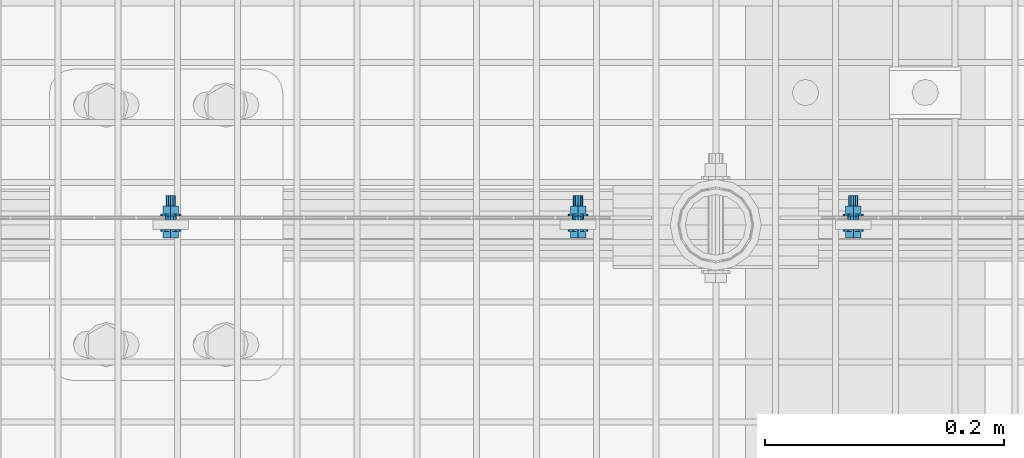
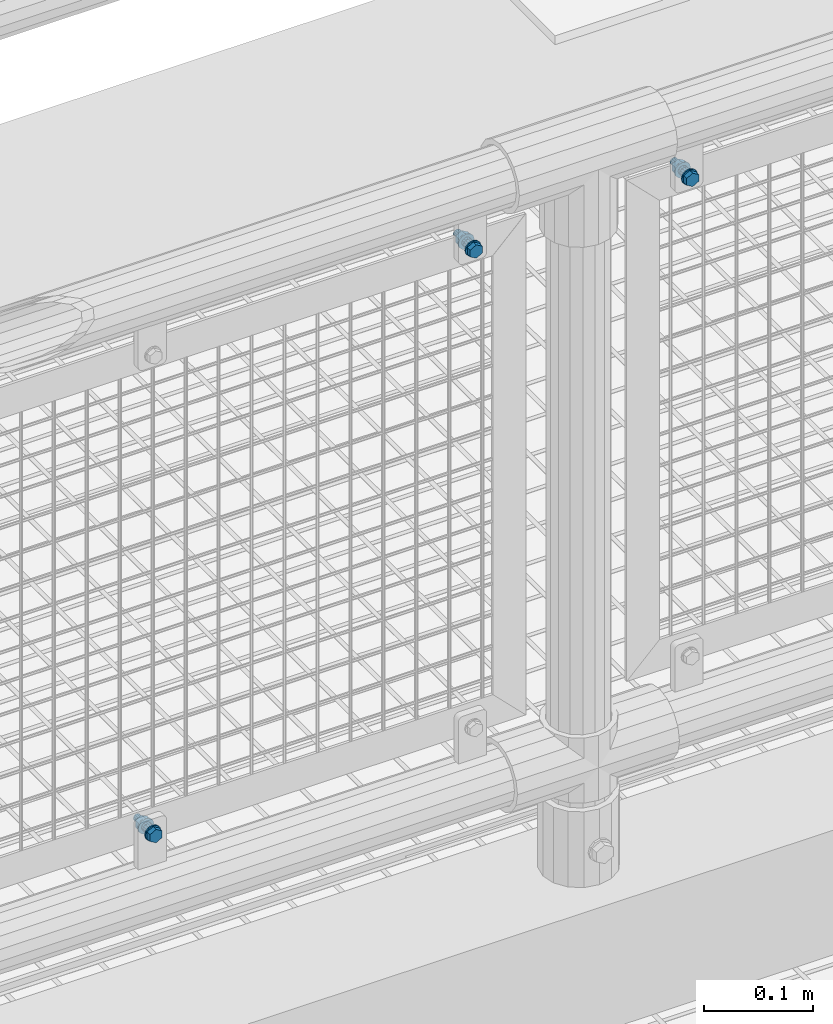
# One storey, part 88 of 1530: 3 mechanical fasteners.
"""IFC2X3 building model written with IfcOpenShell, lengths in millimetres."""

from ifc_helpers import new_model, si_unit, frame, origin_with_axes, place, context, subcontext, project, spatial, faceted_brep, source, transform, mapped, material, type_object, element, save


model = new_model("IFC2X3")

# Units and contexts
model_context = context("Model", 3, precision=1e-05, world=origin_with_axes())
body_context = subcontext(model_context, "Body", "Model", "MODEL_VIEW")
ifc_project = project(units=[si_unit("LENGTHUNIT", "METRE", prefix="MILLI"), si_unit("AREAUNIT", "SQUARE_METRE"), si_unit("VOLUMEUNIT", "CUBIC_METRE"), si_unit("MASSUNIT", "GRAM", prefix="KILO"), si_unit("TIMEUNIT", "SECOND"), si_unit("PLANEANGLEUNIT", "RADIAN"), si_unit("SOLIDANGLEUNIT", "STERADIAN"), si_unit("THERMODYNAMICTEMPERATUREUNIT", "DEGREE_CELSIUS"), si_unit("LUMINOUSINTENSITYUNIT", "LUMEN")], contexts=[model_context])

# Site, building, storey
site_placement = place(None, origin_with_axes())
site = spatial("IfcSite", under=ifc_project, at=site_placement, Name="Brattvåg", CompositionType="ELEMENT")
building_placement = place(site_placement, origin_with_axes())
building = spatial("IfcBuilding", under=site, at=building_placement, Name="Undefined", CompositionType="ELEMENT")
storey_placement = place(building_placement, origin_with_axes())
storey = spatial("IfcBuildingStorey", under=building, at=storey_placement, Name="Undefined", CompositionType="ELEMENT", Elevation=0.0)

# Mechanical fasteners
ifc_material = material(Name="8")
mechanical_fastener_type = type_object("IfcMechanicalFastenerType", Name="Bolt assembly")
shared_shape_1 = source(origin_with_axes(), body_context, "Body", "Brep", [
    faceted_brep([(7.50555349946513, -6.90000021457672, 0.0), (3.75277674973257, -6.90000021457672, 6.5), (-3.75277674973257, -6.90000021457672, 6.5), (-7.50555349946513, -6.90000021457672, 9.19165206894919e-16), (-3.75277674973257, -6.90000021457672, -6.5), (3.75277674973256, -6.90000021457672, -6.5), (3.75277674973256, -1.60000002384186, -6.5), (-3.75277674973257, -1.60000002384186, -6.5), (-7.50555349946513, -1.60000002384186, 9.19165206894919e-16), (-3.75277674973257, -1.60000002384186, 6.5), (3.75277674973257, -1.60000002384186, 6.5), (7.50555349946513, -1.60000002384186, 0.0), (4.0, -1.60000002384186, 0.0), (3.46410161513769, -1.60000002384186, 2.00000000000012), (1.99999999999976, -1.60000002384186, 3.46410161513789), (-4.14534392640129e-13, -1.60000002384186, 4.0), (-2.00000000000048, -1.60000002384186, 3.46410161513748), (-3.4641016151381, -1.60000002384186, 1.9999999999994), (-4.0, -1.60000002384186, -8.29068785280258e-13), (-3.46410161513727, -1.60000002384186, -2.00000000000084), (-1.99999999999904, -1.60000002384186, -3.46410161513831), (1.23916228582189e-12, -1.60000002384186, -4.0), (2.00000000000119, -1.60000002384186, -3.46410161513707), (3.46410161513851, -1.60000002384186, -1.99999999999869), (3.46410161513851, 28.3999999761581, -1.99999999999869), (2.00000000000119, 28.3999999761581, -3.46410161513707), (1.23916228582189e-12, 28.3999999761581, -4.0), (-1.99999999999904, 28.3999999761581, -3.46410161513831), (-3.46410161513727, 28.3999999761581, -2.00000000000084), (-4.0, 28.3999999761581, -8.29068785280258e-13), (-3.4641016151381, 28.3999999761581, 1.9999999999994), (-2.00000000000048, 28.3999999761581, 3.46410161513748), (-4.14534392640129e-13, 28.3999999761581, 4.0), (1.99999999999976, 28.3999999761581, 3.46410161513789), (3.46410161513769, 28.3999999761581, 2.00000000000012), (4.0, 28.3999999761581, 0.0), (8.5, -1.60000002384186, 0.0), (7.36121593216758, -1.60000002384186, 4.25000000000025), (4.24999999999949, -1.60000002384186, 7.36121593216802), (-8.80885584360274e-13, -1.60000002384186, 8.5), (-4.25000000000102, -1.60000002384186, 7.36121593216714), (-7.36121593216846, -1.60000002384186, 4.24999999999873), (-8.5, -1.60000002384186, -1.76177116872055e-12), (-7.3612159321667, -1.60000002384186, -4.25000000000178), (-4.24999999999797, -1.60000002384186, -7.3612159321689), (2.63321985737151e-12, -1.60000002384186, -8.5), (4.25000000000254, -1.60000002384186, -7.36121593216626), (7.36121593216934, -1.60000002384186, -4.24999999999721), (7.36121593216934, 0.0, -4.24999999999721), (4.25000000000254, 0.0, -7.36121593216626), (2.63321985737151e-12, 0.0, -8.5), (-4.24999999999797, 0.0, -7.3612159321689), (-7.3612159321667, 0.0, -4.25000000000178), (-8.5, 0.0, -1.76177116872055e-12), (-7.36121593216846, 0.0, 4.24999999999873), (-4.25000000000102, 0.0, 7.36121593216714), (-8.80885584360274e-13, 0.0, 8.5), (4.24999999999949, 0.0, 7.36121593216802), (7.36121593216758, 0.0, 4.25000000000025), (8.5, 0.0, 0.0), (8.5, 11.5015258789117, 0.0), (7.36121593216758, 11.5015258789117, 4.25000000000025), (4.24999999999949, 11.5015258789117, 7.36121593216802), (-8.80885584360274e-13, 11.5015258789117, 8.5), (-4.25000000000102, 11.5015258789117, 7.36121593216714), (-7.36121593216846, 11.5015258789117, 4.24999999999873), (-8.5, 11.5015258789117, -1.76177116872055e-12), (-7.3612159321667, 11.5015258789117, -4.25000000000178), (-4.24999999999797, 11.5015258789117, -7.3612159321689), (2.63321985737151e-12, 11.5015258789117, -8.5), (4.25000000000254, 11.5015258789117, -7.36121593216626), (7.36121593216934, 11.5015258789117, -4.24999999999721), (7.36121593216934, 13.1015259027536, -4.24999999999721), (4.25000000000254, 13.1015259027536, -7.36121593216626), (2.63321985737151e-12, 13.1015259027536, -8.5), (-4.24999999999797, 13.1015259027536, -7.3612159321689), (-7.3612159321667, 13.1015259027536, -4.25000000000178), (-8.5, 13.1015259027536, -1.76177116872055e-12), (-7.36121593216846, 13.1015259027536, 4.24999999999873), (-4.25000000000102, 13.1015259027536, 7.36121593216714), (-8.80885584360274e-13, 13.1015259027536, 8.5), (4.24999999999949, 13.1015259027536, 7.36121593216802), (7.36121593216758, 13.1015259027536, 4.25000000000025), (8.5, 13.1015259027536, 0.0), (7.50555349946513, 13.1015259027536, 0.0), (3.75277674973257, 13.1015259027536, 6.5), (-3.75277674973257, 13.1015259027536, 6.5), (-7.50555349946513, 13.1015259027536, 9.19165206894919e-16), (-3.75277674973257, 13.1015259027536, -6.5), (3.75277674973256, 13.1015259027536, -6.5), (3.75277674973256, 19.9015260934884, -6.5), (-3.75277674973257, 19.9015260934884, -6.5), (-7.50555349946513, 19.9015260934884, 9.19165206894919e-16), (-3.75277674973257, 19.9015260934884, 6.5), (3.75277674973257, 19.9015260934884, 6.5), (7.50555349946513, 19.9015260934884, 0.0)], [[[0, 1, 2, 3, 4, 5]], [[6, 7, 8, 9, 10, 11]], [[0, 11, 10, 1]], [[1, 10, 9, 2]], [[2, 9, 8, 3]], [[3, 8, 7, 4]], [[4, 7, 6, 5]], [[5, 6, 11, 0]], [[12, 13, 14, 15, 16, 17, 18, 19, 20, 21, 22, 23]], [[24, 25, 26, 27, 28, 29, 30, 31, 32, 33, 34, 35]], [[12, 35, 34, 13]], [[13, 34, 33, 14]], [[14, 33, 32, 15]], [[15, 32, 31, 16]], [[16, 31, 30, 17]], [[17, 30, 29, 18]], [[18, 29, 28, 19]], [[19, 28, 27, 20]], [[20, 27, 26, 21]], [[21, 26, 25, 22]], [[22, 25, 24, 23]], [[23, 24, 35, 12]], [[36, 37, 38, 39, 40, 41, 42, 43, 44, 45, 46, 47]], [[48, 49, 50, 51, 52, 53, 54, 55, 56, 57, 58, 59]], [[36, 59, 58, 37]], [[37, 58, 57, 38]], [[38, 57, 56, 39]], [[39, 56, 55, 40]], [[40, 55, 54, 41]], [[41, 54, 53, 42]], [[42, 53, 52, 43]], [[43, 52, 51, 44]], [[44, 51, 50, 45]], [[45, 50, 49, 46]], [[46, 49, 48, 47]], [[47, 48, 59, 36]], [[60, 61, 62, 63, 64, 65, 66, 67, 68, 69, 70, 71]], [[72, 73, 74, 75, 76, 77, 78, 79, 80, 81, 82, 83]], [[60, 83, 82, 61]], [[61, 82, 81, 62]], [[62, 81, 80, 63]], [[63, 80, 79, 64]], [[64, 79, 78, 65]], [[65, 78, 77, 66]], [[66, 77, 76, 67]], [[67, 76, 75, 68]], [[68, 75, 74, 69]], [[69, 74, 73, 70]], [[70, 73, 72, 71]], [[71, 72, 83, 60]], [[84, 85, 86, 87, 88, 89]], [[90, 91, 92, 93, 94, 95]], [[84, 95, 94, 85]], [[85, 94, 93, 86]], [[86, 93, 92, 87]], [[87, 92, 91, 88]], [[88, 91, 90, 89]], [[89, 90, 95, 84]]]),
    faceted_brep([(5.0, 0.1, 0.0), (4.33012701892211, 0.1, 2.50000000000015), (2.4999999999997, 0.1, 4.33012701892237), (-5.18167990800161e-13, 0.1, 5.0), (-2.5000000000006, 0.1, 4.33012701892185), (-4.33012701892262, 0.1, 2.49999999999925), (-5.0, 0.1, -1.03633598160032e-12), (-4.33012701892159, 0.1, -2.50000000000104), (-2.49999999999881, 0.1, -4.33012701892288), (1.54895285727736e-12, 0.1, -5.0), (2.50000000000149, 0.1, -4.33012701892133), (4.33012701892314, 0.1, -2.49999999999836), (4.33012701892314, 8.1, -2.49999999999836), (2.50000000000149, 8.1, -4.33012701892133), (1.54895285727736e-12, 8.1, -5.0), (-2.49999999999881, 8.1, -4.33012701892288), (-4.33012701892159, 8.1, -2.50000000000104), (-5.0, 8.1, -1.03633598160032e-12), (-4.33012701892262, 8.1, 2.49999999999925), (-2.5000000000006, 8.1, 4.33012701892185), (-5.18167990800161e-13, 8.1, 5.0), (2.4999999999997, 8.1, 4.33012701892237), (4.33012701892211, 8.1, 2.50000000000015), (5.0, 8.1, 0.0), (5.0, 8.40152587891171, 0.0), (4.33012701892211, 8.40152587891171, 2.50000000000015), (2.4999999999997, 8.40152587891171, 4.33012701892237), (-5.18167990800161e-13, 8.40152587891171, 5.0), (-2.5000000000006, 8.40152587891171, 4.33012701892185), (-4.33012701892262, 8.40152587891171, 2.49999999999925), (-5.0, 8.40152587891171, -1.03633598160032e-12), (-4.33012701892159, 8.40152587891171, -2.50000000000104), (-2.49999999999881, 8.40152587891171, -4.33012701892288), (1.54895285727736e-12, 8.40152587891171, -5.0), (2.50000000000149, 8.40152587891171, -4.33012701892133), (4.33012701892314, 8.40152587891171, -2.49999999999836), (4.33012701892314, 11.5015258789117, -2.49999999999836), (2.50000000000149, 11.5015258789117, -4.33012701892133), (1.54895285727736e-12, 11.5015258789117, -5.0), (-2.49999999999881, 11.5015258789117, -4.33012701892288), (-4.33012701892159, 11.5015258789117, -2.50000000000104), (-5.0, 11.5015258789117, -1.03633598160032e-12), (-4.33012701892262, 11.5015258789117, 2.49999999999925), (-2.5000000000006, 11.5015258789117, 4.33012701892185), (-5.18167990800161e-13, 11.5015258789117, 5.0), (2.4999999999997, 11.5015258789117, 4.33012701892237), (4.33012701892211, 11.5015258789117, 2.50000000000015), (5.0, 11.5015258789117, 0.0)], [[[0, 1, 2, 3, 4, 5, 6, 7, 8, 9, 10, 11]], [[12, 13, 14, 15, 16, 17, 18, 19, 20, 21, 22, 23]], [[0, 23, 22, 1]], [[1, 22, 21, 2]], [[2, 21, 20, 3]], [[3, 20, 19, 4]], [[4, 19, 18, 5]], [[5, 18, 17, 6]], [[6, 17, 16, 7]], [[7, 16, 15, 8]], [[8, 15, 14, 9]], [[9, 14, 13, 10]], [[10, 13, 12, 11]], [[11, 12, 23, 0]], [[24, 25, 26, 27, 28, 29, 30, 31, 32, 33, 34, 35]], [[36, 37, 38, 39, 40, 41, 42, 43, 44, 45, 46, 47]], [[24, 47, 46, 25]], [[25, 46, 45, 26]], [[26, 45, 44, 27]], [[27, 44, 43, 28]], [[28, 43, 42, 29]], [[29, 42, 41, 30]], [[30, 41, 40, 31]], [[31, 40, 39, 32]], [[32, 39, 38, 33]], [[33, 38, 37, 34]], [[34, 37, 36, 35]], [[35, 36, 47, 24]]]),
])
mechanical_fastener_1_placement = place(storey_placement, frame((8735.85095214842, 7660.49950027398, 889.680069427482), z_axis=(-1.0, 1.99999855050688e-09, 0.0), x_axis=(0.0, 0.0, 1.0)))
element("IfcMechanicalFastener", 1, at=mechanical_fastener_1_placement, inside=storey, type_object=mechanical_fastener_type, material=ifc_material, Name="Bolt assembly", NominalDiameter=8.0, NominalLength=30.0, context=body_context, shape_type="MappedRepresentation", body=[
    mapped(shared_shape_1, transform((0.0, 0.0, 0.0))),
])
shared_shape_2 = source(origin_with_axes(), body_context, "Body", "Brep", [
    faceted_brep([(7.50555349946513, -6.90000021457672, 0.0), (3.75277674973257, -6.90000021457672, 6.5), (-3.75277674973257, -6.90000021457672, 6.5), (-7.50555349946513, -6.90000021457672, 9.19165206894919e-16), (-3.75277674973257, -6.90000021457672, -6.5), (3.75277674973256, -6.90000021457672, -6.5), (3.75277674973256, -1.60000002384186, -6.5), (-3.75277674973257, -1.60000002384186, -6.5), (-7.50555349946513, -1.60000002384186, 9.19165206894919e-16), (-3.75277674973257, -1.60000002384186, 6.5), (3.75277674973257, -1.60000002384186, 6.5), (7.50555349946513, -1.60000002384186, 0.0), (4.0, -1.60000002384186, 0.0), (3.46410161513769, -1.60000002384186, 2.00000000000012), (1.99999999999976, -1.60000002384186, 3.46410161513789), (-4.14534392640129e-13, -1.60000002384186, 4.0), (-2.00000000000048, -1.60000002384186, 3.46410161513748), (-3.4641016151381, -1.60000002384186, 1.9999999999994), (-4.0, -1.60000002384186, -8.29068785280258e-13), (-3.46410161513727, -1.60000002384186, -2.00000000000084), (-1.99999999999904, -1.60000002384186, -3.46410161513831), (1.23916228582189e-12, -1.60000002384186, -4.0), (2.00000000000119, -1.60000002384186, -3.46410161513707), (3.46410161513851, -1.60000002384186, -1.99999999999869), (3.46410161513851, 28.3999999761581, -1.99999999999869), (2.00000000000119, 28.3999999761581, -3.46410161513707), (1.23916228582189e-12, 28.3999999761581, -4.0), (-1.99999999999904, 28.3999999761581, -3.46410161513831), (-3.46410161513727, 28.3999999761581, -2.00000000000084), (-4.0, 28.3999999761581, -8.29068785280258e-13), (-3.4641016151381, 28.3999999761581, 1.9999999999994), (-2.00000000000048, 28.3999999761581, 3.46410161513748), (-4.14534392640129e-13, 28.3999999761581, 4.0), (1.99999999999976, 28.3999999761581, 3.46410161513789), (3.46410161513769, 28.3999999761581, 2.00000000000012), (4.0, 28.3999999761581, 0.0), (8.5, -1.60000002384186, 0.0), (7.36121593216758, -1.60000002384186, 4.25000000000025), (4.24999999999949, -1.60000002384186, 7.36121593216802), (-8.80885584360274e-13, -1.60000002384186, 8.5), (-4.25000000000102, -1.60000002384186, 7.36121593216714), (-7.36121593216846, -1.60000002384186, 4.24999999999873), (-8.5, -1.60000002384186, -1.76177116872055e-12), (-7.3612159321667, -1.60000002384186, -4.25000000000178), (-4.24999999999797, -1.60000002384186, -7.3612159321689), (2.63321985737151e-12, -1.60000002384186, -8.5), (4.25000000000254, -1.60000002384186, -7.36121593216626), (7.36121593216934, -1.60000002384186, -4.24999999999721), (7.36121593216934, 0.0, -4.24999999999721), (4.25000000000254, 0.0, -7.36121593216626), (2.63321985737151e-12, 0.0, -8.5), (-4.24999999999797, 0.0, -7.3612159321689), (-7.3612159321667, 0.0, -4.25000000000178), (-8.5, 0.0, -1.76177116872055e-12), (-7.36121593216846, 0.0, 4.24999999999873), (-4.25000000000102, 0.0, 7.36121593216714), (-8.80885584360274e-13, 0.0, 8.5), (4.24999999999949, 0.0, 7.36121593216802), (7.36121593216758, 0.0, 4.25000000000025), (8.5, 0.0, 0.0), (8.5, 11.5021362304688, 0.0), (7.36121593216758, 11.5021362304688, 4.25000000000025), (4.24999999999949, 11.5021362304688, 7.36121593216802), (-8.80885584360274e-13, 11.5021362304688, 8.5), (-4.25000000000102, 11.5021362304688, 7.36121593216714), (-7.36121593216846, 11.5021362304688, 4.24999999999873), (-8.5, 11.5021362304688, -1.76177116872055e-12), (-7.3612159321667, 11.5021362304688, -4.25000000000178), (-4.24999999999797, 11.5021362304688, -7.3612159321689), (2.63321985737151e-12, 11.5021362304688, -8.5), (4.25000000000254, 11.5021362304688, -7.36121593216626), (7.36121593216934, 11.5021362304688, -4.24999999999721), (7.36121593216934, 13.1021362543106, -4.24999999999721), (4.25000000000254, 13.1021362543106, -7.36121593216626), (2.63321985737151e-12, 13.1021362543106, -8.5), (-4.24999999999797, 13.1021362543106, -7.3612159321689), (-7.3612159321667, 13.1021362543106, -4.25000000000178), (-8.5, 13.1021362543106, -1.76177116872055e-12), (-7.36121593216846, 13.1021362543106, 4.24999999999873), (-4.25000000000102, 13.1021362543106, 7.36121593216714), (-8.80885584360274e-13, 13.1021362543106, 8.5), (4.24999999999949, 13.1021362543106, 7.36121593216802), (7.36121593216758, 13.1021362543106, 4.25000000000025), (8.5, 13.1021362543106, 0.0), (7.50555349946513, 13.1021362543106, 0.0), (3.75277674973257, 13.1021362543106, 6.5), (-3.75277674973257, 13.1021362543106, 6.5), (-7.50555349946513, 13.1021362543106, 9.19165206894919e-16), (-3.75277674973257, 13.1021362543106, -6.5), (3.75277674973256, 13.1021362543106, -6.5), (3.75277674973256, 19.9021364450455, -6.5), (-3.75277674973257, 19.9021364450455, -6.5), (-7.50555349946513, 19.9021364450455, 9.19165206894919e-16), (-3.75277674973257, 19.9021364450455, 6.5), (3.75277674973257, 19.9021364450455, 6.5), (7.50555349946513, 19.9021364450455, 0.0)], [[[0, 1, 2, 3, 4, 5]], [[6, 7, 8, 9, 10, 11]], [[0, 11, 10, 1]], [[1, 10, 9, 2]], [[2, 9, 8, 3]], [[3, 8, 7, 4]], [[4, 7, 6, 5]], [[5, 6, 11, 0]], [[12, 13, 14, 15, 16, 17, 18, 19, 20, 21, 22, 23]], [[24, 25, 26, 27, 28, 29, 30, 31, 32, 33, 34, 35]], [[12, 35, 34, 13]], [[13, 34, 33, 14]], [[14, 33, 32, 15]], [[15, 32, 31, 16]], [[16, 31, 30, 17]], [[17, 30, 29, 18]], [[18, 29, 28, 19]], [[19, 28, 27, 20]], [[20, 27, 26, 21]], [[21, 26, 25, 22]], [[22, 25, 24, 23]], [[23, 24, 35, 12]], [[36, 37, 38, 39, 40, 41, 42, 43, 44, 45, 46, 47]], [[48, 49, 50, 51, 52, 53, 54, 55, 56, 57, 58, 59]], [[36, 59, 58, 37]], [[37, 58, 57, 38]], [[38, 57, 56, 39]], [[39, 56, 55, 40]], [[40, 55, 54, 41]], [[41, 54, 53, 42]], [[42, 53, 52, 43]], [[43, 52, 51, 44]], [[44, 51, 50, 45]], [[45, 50, 49, 46]], [[46, 49, 48, 47]], [[47, 48, 59, 36]], [[60, 61, 62, 63, 64, 65, 66, 67, 68, 69, 70, 71]], [[72, 73, 74, 75, 76, 77, 78, 79, 80, 81, 82, 83]], [[60, 83, 82, 61]], [[61, 82, 81, 62]], [[62, 81, 80, 63]], [[63, 80, 79, 64]], [[64, 79, 78, 65]], [[65, 78, 77, 66]], [[66, 77, 76, 67]], [[67, 76, 75, 68]], [[68, 75, 74, 69]], [[69, 74, 73, 70]], [[70, 73, 72, 71]], [[71, 72, 83, 60]], [[84, 85, 86, 87, 88, 89]], [[90, 91, 92, 93, 94, 95]], [[84, 95, 94, 85]], [[85, 94, 93, 86]], [[86, 93, 92, 87]], [[87, 92, 91, 88]], [[88, 91, 90, 89]], [[89, 90, 95, 84]]]),
    faceted_brep([(5.0, 0.1, 0.0), (4.33012701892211, 0.1, 2.50000000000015), (2.4999999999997, 0.1, 4.33012701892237), (-5.18167990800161e-13, 0.1, 5.0), (-2.5000000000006, 0.1, 4.33012701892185), (-4.33012701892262, 0.1, 2.49999999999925), (-5.0, 0.1, -1.03633598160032e-12), (-4.33012701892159, 0.1, -2.50000000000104), (-2.49999999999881, 0.1, -4.33012701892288), (1.54895285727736e-12, 0.1, -5.0), (2.50000000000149, 0.1, -4.33012701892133), (4.33012701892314, 0.1, -2.49999999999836), (4.33012701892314, 8.1, -2.49999999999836), (2.50000000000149, 8.1, -4.33012701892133), (1.54895285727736e-12, 8.1, -5.0), (-2.49999999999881, 8.1, -4.33012701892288), (-4.33012701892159, 8.1, -2.50000000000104), (-5.0, 8.1, -1.03633598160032e-12), (-4.33012701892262, 8.1, 2.49999999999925), (-2.5000000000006, 8.1, 4.33012701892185), (-5.18167990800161e-13, 8.1, 5.0), (2.4999999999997, 8.1, 4.33012701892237), (4.33012701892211, 8.1, 2.50000000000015), (5.0, 8.1, 0.0), (5.0, 8.40213623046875, 0.0), (4.33012701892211, 8.40213623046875, 2.50000000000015), (2.4999999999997, 8.40213623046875, 4.33012701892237), (-5.18167990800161e-13, 8.40213623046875, 5.0), (-2.5000000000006, 8.40213623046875, 4.33012701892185), (-4.33012701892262, 8.40213623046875, 2.49999999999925), (-5.0, 8.40213623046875, -1.03633598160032e-12), (-4.33012701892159, 8.40213623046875, -2.50000000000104), (-2.49999999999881, 8.40213623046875, -4.33012701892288), (1.54895285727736e-12, 8.40213623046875, -5.0), (2.50000000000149, 8.40213623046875, -4.33012701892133), (4.33012701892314, 8.40213623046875, -2.49999999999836), (4.33012701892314, 11.5021362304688, -2.49999999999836), (2.50000000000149, 11.5021362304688, -4.33012701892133), (1.54895285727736e-12, 11.5021362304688, -5.0), (-2.49999999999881, 11.5021362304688, -4.33012701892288), (-4.33012701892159, 11.5021362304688, -2.50000000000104), (-5.0, 11.5021362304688, -1.03633598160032e-12), (-4.33012701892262, 11.5021362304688, 2.49999999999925), (-2.5000000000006, 11.5021362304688, 4.33012701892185), (-5.18167990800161e-13, 11.5021362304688, 5.0), (2.4999999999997, 11.5021362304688, 4.33012701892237), (4.33012701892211, 11.5021362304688, 2.50000000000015), (5.0, 11.5021362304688, 0.0)], [[[0, 1, 2, 3, 4, 5, 6, 7, 8, 9, 10, 11]], [[12, 13, 14, 15, 16, 17, 18, 19, 20, 21, 22, 23]], [[0, 23, 22, 1]], [[1, 22, 21, 2]], [[2, 21, 20, 3]], [[3, 20, 19, 4]], [[4, 19, 18, 5]], [[5, 18, 17, 6]], [[6, 17, 16, 7]], [[7, 16, 15, 8]], [[8, 15, 14, 9]], [[9, 14, 13, 10]], [[10, 13, 12, 11]], [[11, 12, 23, 0]], [[24, 25, 26, 27, 28, 29, 30, 31, 32, 33, 34, 35]], [[36, 37, 38, 39, 40, 41, 42, 43, 44, 45, 46, 47]], [[24, 47, 46, 25]], [[25, 46, 45, 26]], [[26, 45, 44, 27]], [[27, 44, 43, 28]], [[28, 43, 42, 29]], [[29, 42, 41, 30]], [[30, 41, 40, 31]], [[31, 40, 39, 32]], [[32, 39, 38, 33]], [[33, 38, 37, 34]], [[34, 37, 36, 35]], [[35, 36, 47, 24]]]),
])
mechanical_fastener_2_placement = place(storey_placement, frame((8506.00009155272, 7660.49888992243, 889.679782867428), z_axis=(-1.0, 1.99999855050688e-09, 0.0), x_axis=(0.0, 0.0, 1.0)))
element("IfcMechanicalFastener", 2, at=mechanical_fastener_2_placement, inside=storey, type_object=mechanical_fastener_type, material=ifc_material, Name="Bolt assembly", NominalDiameter=8.0, NominalLength=30.0, context=body_context, shape_type="MappedRepresentation", body=[
    mapped(shared_shape_2, transform((0.0, 0.0, 0.0))),
])
shared_shape_3 = source(origin_with_axes(), body_context, "Body", "Brep", [
    faceted_brep([(7.50555349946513, -6.899000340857, 0.0), (3.75277674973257, -6.899000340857, 6.5), (-3.75277674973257, -6.899000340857, 6.5), (-7.50555349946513, -6.899000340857, 9.19165206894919e-16), (-3.75277674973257, -6.899000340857, -6.5), (3.75277674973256, -6.899000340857, -6.5), (3.75277674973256, -1.59900015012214, -6.5), (-3.75277674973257, -1.59900015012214, -6.5), (-7.50555349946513, -1.59900015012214, 9.19165206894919e-16), (-3.75277674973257, -1.59900015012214, 6.5), (3.75277674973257, -1.59900015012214, 6.5), (7.50555349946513, -1.59900015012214, 0.0), (4.0, -1.59900015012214, 0.0), (3.46410161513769, -1.59900015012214, 2.00000000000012), (1.99999999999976, -1.59900015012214, 3.46410161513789), (-4.14534392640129e-13, -1.59900015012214, 4.0), (-2.00000000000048, -1.59900015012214, 3.46410161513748), (-3.4641016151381, -1.59900015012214, 1.9999999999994), (-4.0, -1.59900015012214, -8.29068785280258e-13), (-3.46410161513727, -1.59900015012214, -2.00000000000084), (-1.99999999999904, -1.59900015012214, -3.46410161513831), (1.23916228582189e-12, -1.59900015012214, -4.0), (2.00000000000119, -1.59900015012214, -3.46410161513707), (3.46410161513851, -1.59900015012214, -1.99999999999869), (3.46410161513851, 28.4009998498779, -1.99999999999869), (2.00000000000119, 28.4009998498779, -3.46410161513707), (1.23916228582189e-12, 28.4009998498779, -4.0), (-1.99999999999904, 28.4009998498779, -3.46410161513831), (-3.46410161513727, 28.4009998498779, -2.00000000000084), (-4.0, 28.4009998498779, -8.29068785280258e-13), (-3.4641016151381, 28.4009998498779, 1.9999999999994), (-2.00000000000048, 28.4009998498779, 3.46410161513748), (-4.14534392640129e-13, 28.4009998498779, 4.0), (1.99999999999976, 28.4009998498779, 3.46410161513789), (3.46410161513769, 28.4009998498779, 2.00000000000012), (4.0, 28.4009998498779, 0.0), (8.5, -1.59900015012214, 0.0), (7.36121593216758, -1.59900015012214, 4.25000000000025), (4.24999999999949, -1.59900015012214, 7.36121593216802), (-8.80885584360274e-13, -1.59900015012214, 8.5), (-4.25000000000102, -1.59900015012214, 7.36121593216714), (-7.36121593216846, -1.59900015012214, 4.24999999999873), (-8.5, -1.59900015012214, -1.76177116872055e-12), (-7.3612159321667, -1.59900015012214, -4.25000000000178), (-4.24999999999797, -1.59900015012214, -7.3612159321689), (2.63321985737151e-12, -1.59900015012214, -8.5), (4.25000000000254, -1.59900015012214, -7.36121593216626), (7.36121593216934, -1.59900015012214, -4.24999999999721), (7.36121593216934, 0.000999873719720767, -4.24999999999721), (4.25000000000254, 0.000999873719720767, -7.36121593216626), (2.63321985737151e-12, 0.000999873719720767, -8.5), (-4.24999999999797, 0.000999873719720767, -7.3612159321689), (-7.3612159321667, 0.000999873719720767, -4.25000000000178), (-8.5, 0.000999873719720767, -1.76177116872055e-12), (-7.36121593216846, 0.000999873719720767, 4.24999999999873), (-4.25000000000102, 0.000999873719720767, 7.36121593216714), (-8.80885584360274e-13, 0.000999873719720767, 8.5), (4.24999999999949, 0.000999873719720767, 7.36121593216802), (7.36121593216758, 0.000999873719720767, 4.25000000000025), (8.5, 0.000999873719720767, 0.0), (8.5, 11.5030995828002, 0.0), (7.36121593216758, 11.5030995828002, 4.25000000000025), (4.24999999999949, 11.5030995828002, 7.36121593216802), (-8.80885584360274e-13, 11.5030995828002, 8.5), (-4.25000000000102, 11.5030995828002, 7.36121593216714), (-7.36121593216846, 11.5030995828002, 4.24999999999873), (-8.5, 11.5030995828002, -1.76177116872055e-12), (-7.3612159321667, 11.5030995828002, -4.25000000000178), (-4.24999999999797, 11.5030995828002, -7.3612159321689), (2.63321985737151e-12, 11.5030995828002, -8.5), (4.25000000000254, 11.5030995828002, -7.36121593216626), (7.36121593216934, 11.5030995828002, -4.24999999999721), (7.36121593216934, 13.1030996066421, -4.24999999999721), (4.25000000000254, 13.1030996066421, -7.36121593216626), (2.63321985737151e-12, 13.1030996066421, -8.5), (-4.24999999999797, 13.1030996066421, -7.3612159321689), (-7.3612159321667, 13.1030996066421, -4.25000000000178), (-8.5, 13.1030996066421, -1.76177116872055e-12), (-7.36121593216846, 13.1030996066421, 4.24999999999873), (-4.25000000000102, 13.1030996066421, 7.36121593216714), (-8.80885584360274e-13, 13.1030996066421, 8.5), (4.24999999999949, 13.1030996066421, 7.36121593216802), (7.36121593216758, 13.1030996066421, 4.25000000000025), (8.5, 13.1030996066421, 0.0), (7.50555349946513, 13.1030996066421, 0.0), (3.75277674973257, 13.1030996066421, 6.5), (-3.75277674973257, 13.1030996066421, 6.5), (-7.50555349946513, 13.1030996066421, 9.19165206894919e-16), (-3.75277674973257, 13.1030996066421, -6.5), (3.75277674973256, 13.1030996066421, -6.5), (3.75277674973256, 19.9030997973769, -6.5), (-3.75277674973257, 19.9030997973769, -6.5), (-7.50555349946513, 19.9030997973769, 9.19165206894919e-16), (-3.75277674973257, 19.9030997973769, 6.5), (3.75277674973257, 19.9030997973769, 6.5), (7.50555349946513, 19.9030997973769, 0.0)], [[[0, 1, 2, 3, 4, 5]], [[6, 7, 8, 9, 10, 11]], [[0, 11, 10, 1]], [[1, 10, 9, 2]], [[2, 9, 8, 3]], [[3, 8, 7, 4]], [[4, 7, 6, 5]], [[5, 6, 11, 0]], [[12, 13, 14, 15, 16, 17, 18, 19, 20, 21, 22, 23]], [[24, 25, 26, 27, 28, 29, 30, 31, 32, 33, 34, 35]], [[12, 35, 34, 13]], [[13, 34, 33, 14]], [[14, 33, 32, 15]], [[15, 32, 31, 16]], [[16, 31, 30, 17]], [[17, 30, 29, 18]], [[18, 29, 28, 19]], [[19, 28, 27, 20]], [[20, 27, 26, 21]], [[21, 26, 25, 22]], [[22, 25, 24, 23]], [[23, 24, 35, 12]], [[36, 37, 38, 39, 40, 41, 42, 43, 44, 45, 46, 47]], [[48, 49, 50, 51, 52, 53, 54, 55, 56, 57, 58, 59]], [[36, 59, 58, 37]], [[37, 58, 57, 38]], [[38, 57, 56, 39]], [[39, 56, 55, 40]], [[40, 55, 54, 41]], [[41, 54, 53, 42]], [[42, 53, 52, 43]], [[43, 52, 51, 44]], [[44, 51, 50, 45]], [[45, 50, 49, 46]], [[46, 49, 48, 47]], [[47, 48, 59, 36]], [[60, 61, 62, 63, 64, 65, 66, 67, 68, 69, 70, 71]], [[72, 73, 74, 75, 76, 77, 78, 79, 80, 81, 82, 83]], [[60, 83, 82, 61]], [[61, 82, 81, 62]], [[62, 81, 80, 63]], [[63, 80, 79, 64]], [[64, 79, 78, 65]], [[65, 78, 77, 66]], [[66, 77, 76, 67]], [[67, 76, 75, 68]], [[68, 75, 74, 69]], [[69, 74, 73, 70]], [[70, 73, 72, 71]], [[71, 72, 83, 60]], [[84, 85, 86, 87, 88, 89]], [[90, 91, 92, 93, 94, 95]], [[84, 95, 94, 85]], [[85, 94, 93, 86]], [[86, 93, 92, 87]], [[87, 92, 91, 88]], [[88, 91, 90, 89]], [[89, 90, 95, 84]]]),
    faceted_brep([(5.0, 0.100999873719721, 0.0), (4.33012701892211, 0.100999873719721, 2.50000000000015), (2.4999999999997, 0.100999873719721, 4.33012701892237), (-5.18167990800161e-13, 0.100999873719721, 5.0), (-2.5000000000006, 0.100999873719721, 4.33012701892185), (-4.33012701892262, 0.100999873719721, 2.49999999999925), (-5.0, 0.100999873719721, -1.03633598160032e-12), (-4.33012701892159, 0.100999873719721, -2.50000000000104), (-2.49999999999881, 0.100999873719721, -4.33012701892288), (1.54895285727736e-12, 0.100999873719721, -5.0), (2.50000000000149, 0.100999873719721, -4.33012701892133), (4.33012701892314, 0.100999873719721, -2.49999999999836), (4.33012701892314, 8.10099988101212, -2.49999999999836), (2.50000000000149, 8.10099988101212, -4.33012701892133), (1.54895285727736e-12, 8.10099988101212, -5.0), (-2.49999999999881, 8.10099988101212, -4.33012701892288), (-4.33012701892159, 8.10099988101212, -2.50000000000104), (-5.0, 8.10099988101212, -1.03633598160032e-12), (-4.33012701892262, 8.10099988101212, 2.49999999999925), (-2.5000000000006, 8.10099988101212, 4.33012701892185), (-5.18167990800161e-13, 8.10099988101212, 5.0), (2.4999999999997, 8.10099988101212, 4.33012701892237), (4.33012701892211, 8.10099988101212, 2.50000000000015), (5.0, 8.10099988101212, 0.0), (5.0, 8.40309958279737, 0.0), (4.33012701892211, 8.40309958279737, 2.50000000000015), (2.4999999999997, 8.40309958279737, 4.33012701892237), (-5.18167990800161e-13, 8.40309958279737, 5.0), (-2.5000000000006, 8.40309958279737, 4.33012701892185), (-4.33012701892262, 8.40309958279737, 2.49999999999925), (-5.0, 8.40309958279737, -1.03633598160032e-12), (-4.33012701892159, 8.40309958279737, -2.50000000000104), (-2.49999999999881, 8.40309958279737, -4.33012701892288), (1.54895285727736e-12, 8.40309958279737, -5.0), (2.50000000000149, 8.40309958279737, -4.33012701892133), (4.33012701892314, 8.40309958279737, -2.49999999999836), (4.33012701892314, 11.5030995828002, -2.49999999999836), (2.50000000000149, 11.5030995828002, -4.33012701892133), (1.54895285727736e-12, 11.5030995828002, -5.0), (-2.49999999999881, 11.5030995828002, -4.33012701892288), (-4.33012701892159, 11.5030995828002, -2.50000000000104), (-5.0, 11.5030995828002, -1.03633598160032e-12), (-4.33012701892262, 11.5030995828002, 2.49999999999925), (-2.5000000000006, 11.5030995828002, 4.33012701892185), (-5.18167990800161e-13, 11.5030995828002, 5.0), (2.4999999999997, 11.5030995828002, 4.33012701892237), (4.33012701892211, 11.5030995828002, 2.50000000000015), (5.0, 11.5030995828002, 0.0)], [[[0, 1, 2, 3, 4, 5, 6, 7, 8, 9, 10, 11]], [[12, 13, 14, 15, 16, 17, 18, 19, 20, 21, 22, 23]], [[0, 23, 22, 1]], [[1, 22, 21, 2]], [[2, 21, 20, 3]], [[3, 20, 19, 4]], [[4, 19, 18, 5]], [[5, 18, 17, 6]], [[6, 17, 16, 7]], [[7, 16, 15, 8]], [[8, 15, 14, 9]], [[9, 14, 13, 10]], [[10, 13, 12, 11]], [[11, 12, 23, 0]], [[24, 25, 26, 27, 28, 29, 30, 31, 32, 33, 34, 35]], [[36, 37, 38, 39, 40, 41, 42, 43, 44, 45, 46, 47]], [[24, 47, 46, 25]], [[25, 46, 45, 26]], [[26, 45, 44, 27]], [[27, 44, 43, 28]], [[28, 43, 42, 29]], [[29, 42, 41, 30]], [[30, 41, 40, 31]], [[31, 40, 39, 32]], [[32, 39, 38, 33]], [[33, 38, 37, 34]], [[34, 37, 36, 35]], [[35, 36, 47, 24]]]),
])
mechanical_fastener_3_placement = place(storey_placement, frame((8165.8512954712, 7660.49843978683, 352.299672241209), z_axis=(-1.0, 1.99999855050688e-09, 0.0), x_axis=(0.0, 0.0, 1.0)))
element("IfcMechanicalFastener", 3, at=mechanical_fastener_3_placement, inside=storey, type_object=mechanical_fastener_type, material=ifc_material, Name="Bolt assembly", NominalDiameter=8.0, NominalLength=30.0, context=body_context, shape_type="MappedRepresentation", body=[
    mapped(shared_shape_3, transform((0.0, 0.0, 0.0))),
])

save(model, "model.ifc")
